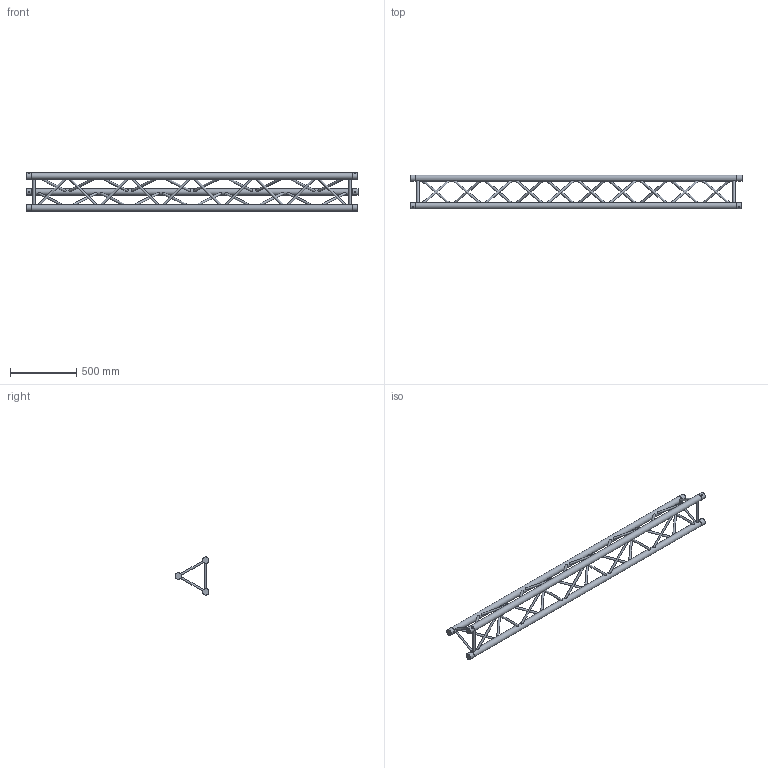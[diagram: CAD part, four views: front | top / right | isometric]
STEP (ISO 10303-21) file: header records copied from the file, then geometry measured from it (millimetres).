
FILE_DESCRIPTION(/* description */ (''),/* implementation_level */ '2;1');
FILE_NAME(/* name */ 'M:\Symbolen\STP\30-er truss\111050024.stp',/* time_stamp */ '2014-12-03T11:58:14+01:00',/* author */ ('Stephan'),/* organization */ (''),/* preprocessor_version */ 'ST-DEVELOPER v15.6',/* originating_system */ 'Autodesk Inventor 2015',/* authorisation */ '');
FILE_SCHEMA (('AUTOMOTIVE_DESIGN { 1 0 10303 214 3 1 1 }'));
Length unit declared in the file: millimetre
Products named in the file (1): 160023778
Bounding box: 2500 x 255.28 x 287.3 mm (x, y, z)
Volume: 15114129.4 mm3; surface area: 1643157.8 mm2
Topology: 33 solids, 39 shells, 153 faces, 237 edges, 162 vertices
Faces by surface type: plane 96, cylinder 51, cone 6
Full cylindrical faces by diameter (mm): 10 x6, 16 x36, 48.3 x9
Entity records: 3750 total; most frequent: CARTESIAN_POINT 850, DIRECTION 536, ORIENTED_EDGE 312, AXIS2_PLACEMENT_3D 262, EDGE_LOOP 240, STYLED_ITEM 184, FACE_OUTER_BOUND 153, ADVANCED_FACE 153
